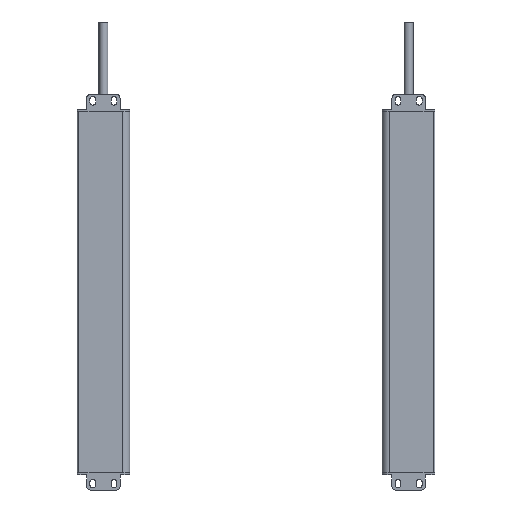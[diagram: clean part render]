
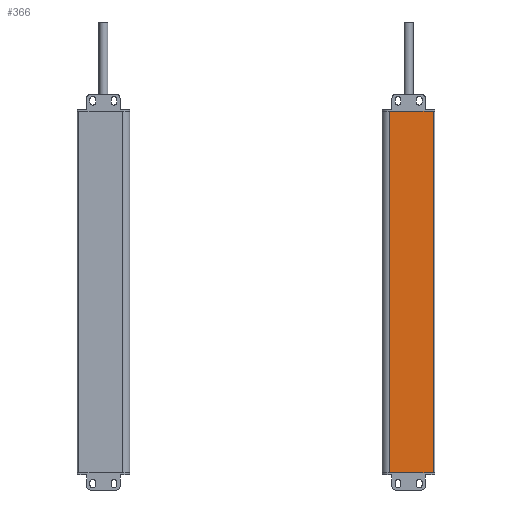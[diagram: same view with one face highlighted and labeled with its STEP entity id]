
A CAD part, front view. The second image highlights one B-rep face of the part: STEP entity #366.
In plain terms, the highlighted planar face has unit normal (0, -1, 0).
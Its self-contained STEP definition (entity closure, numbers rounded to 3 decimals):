
#123=PLANE('',#5869);
#366=ADVANCED_FACE('',(#797),#123,.T.);
#797=FACE_OUTER_BOUND('',#1073,.T.);
#1073=EDGE_LOOP('',(#1780,#1781,#1782,#1783));
#1780=ORIENTED_EDGE('',*,*,#3977,.T.);
#1781=ORIENTED_EDGE('',*,*,#3978,.F.);
#1782=ORIENTED_EDGE('',*,*,#3979,.F.);
#1783=ORIENTED_EDGE('',*,*,#3903,.T.);
#3351=VERTEX_POINT('',#8106);
#3352=VERTEX_POINT('',#8108);
#3421=VERTEX_POINT('',#8253);
#3422=VERTEX_POINT('',#8257);
#3903=EDGE_CURVE('',#3352,#3351,#4726,.T.);
#3977=EDGE_CURVE('',#3351,#3421,#4771,.T.);
#3978=EDGE_CURVE('',#3422,#3421,#4772,.T.);
#3979=EDGE_CURVE('',#3352,#3422,#4773,.T.);
#4726=LINE('',#8107,#5280);
#4771=LINE('',#8254,#5325);
#4772=LINE('',#8256,#5326);
#4773=LINE('',#8258,#5327);
#5280=VECTOR('',#6413,1.);
#5325=VECTOR('',#6522,1.);
#5326=VECTOR('',#6525,1.);
#5327=VECTOR('',#6526,1.);
#5869=AXIS2_PLACEMENT_3D('',#8259,#6527,#6528);
#6413=DIRECTION('',(1.,0.,0.));
#6522=DIRECTION('',(0.,0.,1.));
#6525=DIRECTION('',(1.,0.,0.));
#6526=DIRECTION('',(0.,0.,1.));
#6527=DIRECTION('',(0.,-1.,0.));
#6528=DIRECTION('',(1.,0.,0.));
#8106=CARTESIAN_POINT('',(3.35,-1.3,-100.));
#8107=CARTESIAN_POINT('',(-21.15,-1.3,-100.));
#8108=CARTESIAN_POINT('',(-21.15,-1.3,-100.));
#8253=CARTESIAN_POINT('',(3.35,-1.3,102.));
#8254=CARTESIAN_POINT('',(3.35,-1.3,-100.));
#8256=CARTESIAN_POINT('',(-4122.897,-1.3,102.));
#8257=CARTESIAN_POINT('',(-21.15,-1.3,102.));
#8258=CARTESIAN_POINT('',(-21.15,-1.3,-100.));
#8259=CARTESIAN_POINT('',(-21.15,-1.3,-100.));
